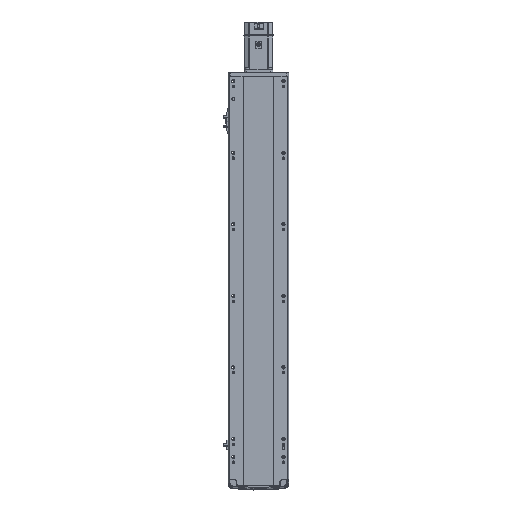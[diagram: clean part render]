
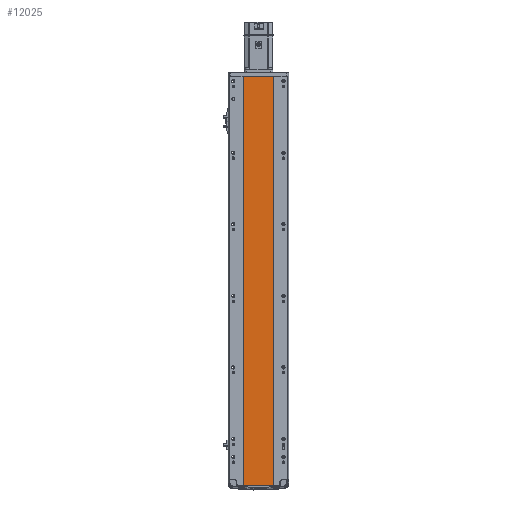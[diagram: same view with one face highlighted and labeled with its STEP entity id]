
A CAD part, front view. The second image highlights one B-rep face of the part: STEP entity #12025.
In plain terms, the highlighted planar face has unit normal (0, -1, 0).
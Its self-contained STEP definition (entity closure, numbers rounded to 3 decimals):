
#60 = AXIS2_PLACEMENT_3D ( 'NONE', #5030, #42315, #37830 ) ;
#830 = CARTESIAN_POINT ( 'NONE',  ( 0., 0.999, 1143.5 ) ) ;
#1941 = DIRECTION ( 'NONE',  ( 0., 0., -1. ) ) ;
#2116 = CARTESIAN_POINT ( 'NONE',  ( 41.793, 0.998, 1143.5 ) ) ;
#3701 = VECTOR ( 'NONE', #1941, 1000. ) ;
#4080 = ORIENTED_EDGE ( 'NONE', *, *, #49169, .T. ) ;
#4783 = CARTESIAN_POINT ( 'NONE',  ( -41.791, 1., 1143.5 ) ) ;
#5030 = CARTESIAN_POINT ( 'NONE',  ( 0., 0.999, 1143.5 ) ) ;
#5566 = CARTESIAN_POINT ( 'NONE',  ( -41.791, 1., 0. ) ) ;
#6096 = DIRECTION ( 'NONE',  ( 1., 0., 0. ) ) ;
#8552 = PLANE ( 'NONE',  #60 ) ;
#10254 = VERTEX_POINT ( 'NONE', #4783 ) ;
#10255 = EDGE_LOOP ( 'NONE', ( #4080, #39483, #10856, #13749 ) ) ;
#10856 = ORIENTED_EDGE ( 'NONE', *, *, #32793, .F. ) ;
#12025 = ADVANCED_FACE ( 'NONE', ( #26951 ), #8552, .F. ) ;
#12236 = LINE ( 'NONE', #830, #45336 ) ;
#13749 = ORIENTED_EDGE ( 'NONE', *, *, #22373, .T. ) ;
#18532 = VECTOR ( 'NONE', #21098, 1000. ) ;
#19469 = VERTEX_POINT ( 'NONE', #36729 ) ;
#21098 = DIRECTION ( 'NONE',  ( 1., 0., 0. ) ) ;
#21767 = CARTESIAN_POINT ( 'NONE',  ( 41.793, 0.998, 0. ) ) ;
#22373 = EDGE_CURVE ( 'NONE', #10254, #31641, #46049, .T. ) ;
#23161 = CARTESIAN_POINT ( 'NONE',  ( -41.791, 1., 1143.5 ) ) ;
#26607 = DIRECTION ( 'NONE',  ( 0., 0., -1. ) ) ;
#26951 = FACE_OUTER_BOUND ( 'NONE', #10255, .T. ) ;
#31172 = VERTEX_POINT ( 'NONE', #21767 ) ;
#31641 = VERTEX_POINT ( 'NONE', #5566 ) ;
#32793 = EDGE_CURVE ( 'NONE', #10254, #19469, #12236, .T. ) ;
#36729 = CARTESIAN_POINT ( 'NONE',  ( 41.793, 0.998, 1143.5 ) ) ;
#37830 = DIRECTION ( 'NONE',  ( -1., 0., 0. ) ) ;
#38720 = LINE ( 'NONE', #46014, #18532 ) ;
#39483 = ORIENTED_EDGE ( 'NONE', *, *, #46500, .F. ) ;
#42315 = DIRECTION ( 'NONE',  ( 0., 1., 0. ) ) ;
#45322 = LINE ( 'NONE', #2116, #3701 ) ;
#45336 = VECTOR ( 'NONE', #6096, 1000. ) ;
#46014 = CARTESIAN_POINT ( 'NONE',  ( 0., 0.999, 0. ) ) ;
#46049 = LINE ( 'NONE', #23161, #49954 ) ;
#46500 = EDGE_CURVE ( 'NONE', #19469, #31172, #45322, .T. ) ;
#49169 = EDGE_CURVE ( 'NONE', #31641, #31172, #38720, .T. ) ;
#49954 = VECTOR ( 'NONE', #26607, 1000. ) ;
